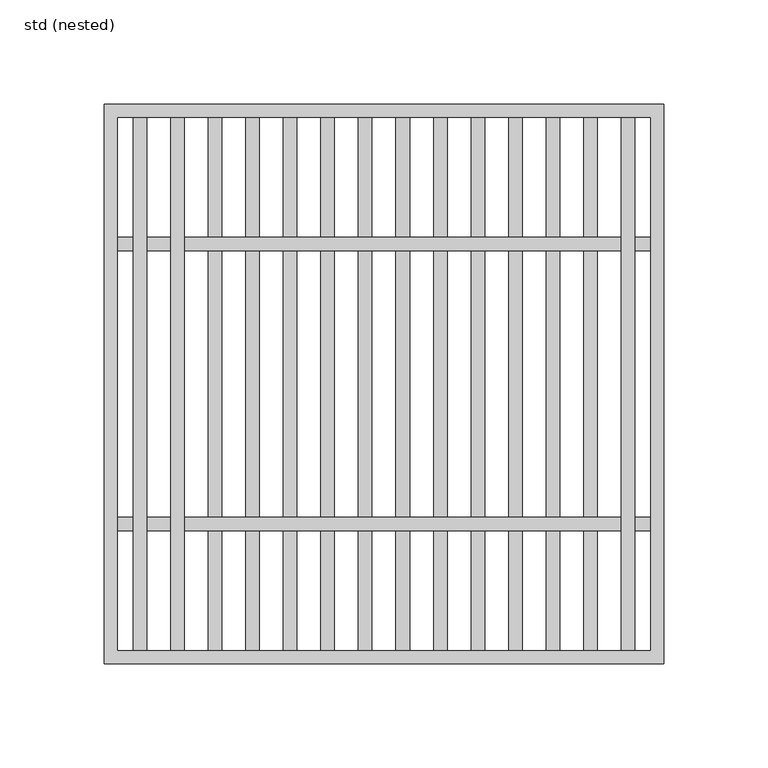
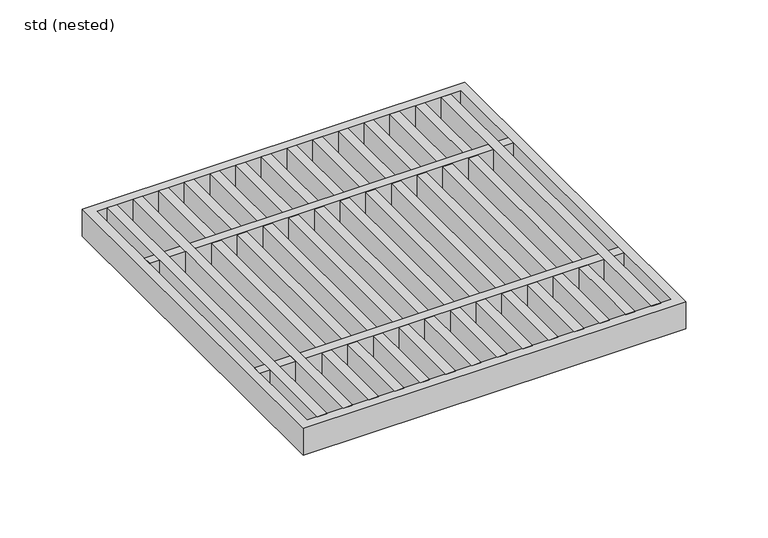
"""IFC4 building model written with IfcOpenShell, lengths in millimetres: sanitary terminal geometry, ZZZ_do not use_PF_ST_UN_square grating for hygienic gully_ACO : std (nested)."""

from ifc_helpers import new_model, si_unit, frame, origin, place, context, project, spatial, polyline, outline, extrude, source, transform, mapped, element, save


def std_nested_8abb2362(model_context):
    return source(origin(), model_context, "Body", "SweptSolid", [
        extrude(outline(polyline([(120.25, -127.5), (113.75, -127.5), (113.75, 127.5), (120.25, 127.5), (120.25, -127.5)])), frame((0.0, 0.0, -20.0), z_axis=(0.0, 0.0, 1.0), x_axis=(1.0, 0.0, 0.0)), (0.0, 0.0, 1.0), 20.0),
        extrude(outline(polyline([(-113.75, -127.5), (-120.25, -127.5), (-120.25, 127.5), (-113.75, 127.5), (-113.75, -127.5)])), frame((0.0, 0.0, -20.0), z_axis=(0.0, 0.0, 1.0), x_axis=(1.0, 0.0, 0.0)), (0.0, 0.0, 1.0), 20.0),
        extrude(outline(polyline([(-95.75, -127.5), (-102.25, -127.5), (-102.25, 127.5), (-95.75, 127.5), (-95.75, -127.5)])), frame((0.0, 0.0, -20.0), z_axis=(0.0, 0.0, 1.0), x_axis=(1.0, 0.0, 0.0)), (0.0, 0.0, 1.0), 20.0),
        extrude(outline(polyline([(-127.5, 63.75), (-127.5, 70.25), (127.5, 70.25), (127.5, 63.75), (-127.5, 63.75)])), frame((0.0, 0.0, -20.0), z_axis=(0.0, 0.0, 1.0), x_axis=(1.0, 0.0, 0.0)), (0.0, 0.0, 1.0), 20.0),
        extrude(outline(polyline([(-127.5, -70.25), (-127.5, -63.75), (127.5, -63.75), (127.5, -70.25), (-127.5, -70.25)])), frame((0.0, 0.0, -20.0), z_axis=(0.0, 0.0, 1.0), x_axis=(1.0, 0.0, 0.0)), (0.0, 0.0, 1.0), 20.0),
        extrude(outline(polyline([(102.25, -127.5), (95.75, -127.5), (95.75, 127.5), (102.25, 127.5), (102.25, -127.5)])), frame((0.0, 0.0, -20.0), z_axis=(0.0, 0.0, 1.0), x_axis=(1.0, 0.0, 0.0)), (0.0, 0.0, 1.0), 20.0),
        extrude(outline(polyline([(-77.75, -127.5), (-84.25, -127.5), (-84.25, 127.5), (-77.75, 127.5), (-77.75, -127.5)])), frame((0.0, 0.0, -20.0), z_axis=(0.0, 0.0, 1.0), x_axis=(1.0, 0.0, 0.0)), (0.0, 0.0, 1.0), 20.0),
        extrude(outline(polyline([(-59.75, -127.5), (-66.25, -127.5), (-66.25, 127.5), (-59.75, 127.5), (-59.75, -127.5)])), frame((0.0, 0.0, -20.0), z_axis=(0.0, 0.0, 1.0), x_axis=(1.0, 0.0, 0.0)), (0.0, 0.0, 1.0), 20.0),
        extrude(outline(polyline([(-41.75, -127.5), (-48.25, -127.5), (-48.25, 127.5), (-41.75, 127.5), (-41.75, -127.5)])), frame((0.0, 0.0, -20.0), z_axis=(0.0, 0.0, 1.0), x_axis=(1.0, 0.0, 0.0)), (0.0, 0.0, 1.0), 20.0),
        extrude(outline(polyline([(-23.75, -127.5), (-30.25, -127.5), (-30.25, 127.5), (-23.75, 127.5), (-23.75, -127.5)])), frame((0.0, 0.0, -20.0), z_axis=(0.0, 0.0, 1.0), x_axis=(1.0, 0.0, 0.0)), (0.0, 0.0, 1.0), 20.0),
        extrude(outline(polyline([(84.25, -127.5), (77.75, -127.5), (77.75, 127.5), (84.25, 127.5), (84.25, -127.5)])), frame((0.0, 0.0, -20.0), z_axis=(0.0, 0.0, 1.0), x_axis=(1.0, 0.0, 0.0)), (0.0, 0.0, 1.0), 20.0),
        extrude(outline(polyline([(66.25, -127.5), (59.75, -127.5), (59.75, 127.5), (66.25, 127.5), (66.25, -127.5)])), frame((0.0, 0.0, -20.0), z_axis=(0.0, 0.0, 1.0), x_axis=(1.0, 0.0, 0.0)), (0.0, 0.0, 1.0), 20.0),
        extrude(outline(polyline([(48.25, -127.5), (41.75, -127.5), (41.75, 127.5), (48.25, 127.5), (48.25, -127.5)])), frame((0.0, 0.0, -20.0), z_axis=(0.0, 0.0, 1.0), x_axis=(1.0, 0.0, 0.0)), (0.0, 0.0, 1.0), 20.0),
        extrude(outline(polyline([(30.25, -127.5), (23.75, -127.5), (23.75, 127.5), (30.25, 127.5), (30.25, -127.5)])), frame((0.0, 0.0, -20.0), z_axis=(0.0, 0.0, 1.0), x_axis=(1.0, 0.0, 0.0)), (0.0, 0.0, 1.0), 20.0),
        extrude(outline(polyline([(-5.75, -127.5), (-12.25, -127.5), (-12.25, 127.5), (-5.75, 127.5), (-5.75, -127.5)])), frame((0.0, 0.0, -20.0), z_axis=(0.0, 0.0, 1.0), x_axis=(1.0, 0.0, 0.0)), (0.0, 0.0, 1.0), 20.0),
        extrude(outline(polyline([(12.25, -127.5), (5.75, -127.5), (5.75, 127.5), (12.25, 127.5), (12.25, -127.5)])), frame((0.0, 0.0, -20.0), z_axis=(0.0, 0.0, 1.0), x_axis=(1.0, 0.0, 0.0)), (0.0, 0.0, 1.0), 20.0),
        extrude(outline(polyline([(134.0, 134.0), (134.0, -134.0), (-134.0, -134.0), (-134.0, 134.0), (134.0, 134.0)]), holes=[polyline([(127.5, 127.5), (-127.5, 127.5), (-127.5, -127.5), (127.5, -127.5), (127.5, 127.5)])]), frame((0.0, 0.0, -20.0), z_axis=(0.0, 0.0, 1.0), x_axis=(1.0, 0.0, 0.0)), (0.0, 0.0, 1.0), 20.0),
    ])


if __name__ == "__main__":
    model = new_model("IFC4")
    model_context = context("Model", 3, world=origin())
    ifc_project = project(units=[si_unit("LENGTHUNIT", "METRE", prefix="MILLI")], contexts=[model_context])
    site = spatial("IfcSite", under=ifc_project)
    building = spatial("IfcBuilding", under=site)
    placement = place(None, origin())
    std_nested_shape = std_nested_8abb2362(model_context)
    element("IfcSanitaryTerminal", 1, ObjectType="ZZZ_do not use_PF_ST_UN_square grating for hygienic gully_ACO : std (nested)", at=placement, inside=building, context=model_context, shape_type="MappedRepresentation", body=[
        mapped(std_nested_shape, transform((0.0, 0.0, 0.0), x_axis=(1.0, 0.0, 0.0), y_axis=(0.0, 1.0, 0.0), z_axis=(0.0, 0.0, 1.0))),
    ])
    save(model, "model.ifc")
